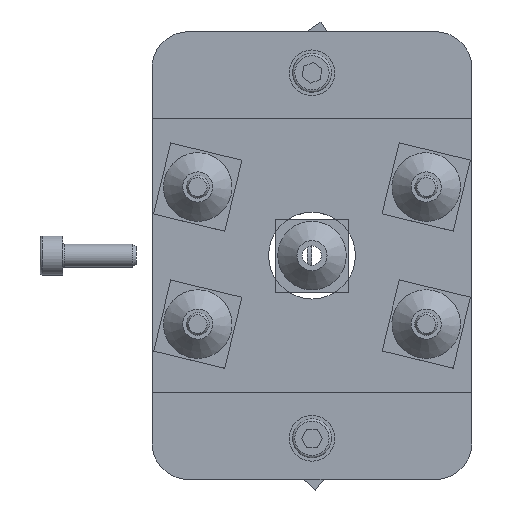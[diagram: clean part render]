
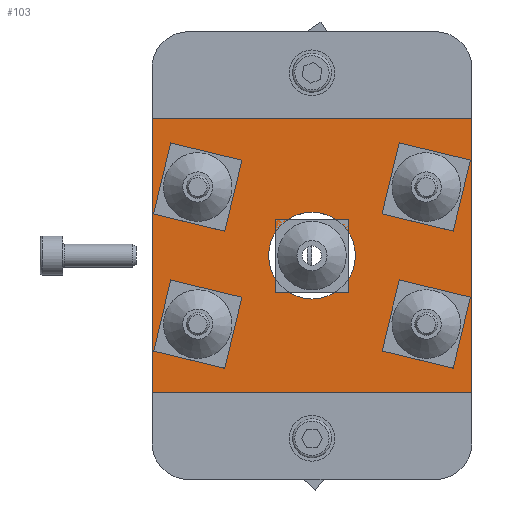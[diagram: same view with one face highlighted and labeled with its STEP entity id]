
A CAD part, top view. The second image highlights one B-rep face of the part: STEP entity #103.
In plain terms, the highlighted planar face has unit normal (0, 0, 1).
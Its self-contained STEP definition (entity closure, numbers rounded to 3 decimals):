
#103 = ADVANCED_FACE( '', ( #246, #247, #248, #249, #250, #251 ), #252, .T. );
#246 = FACE_BOUND( '', #446, .T. );
#247 = FACE_OUTER_BOUND( '', #447, .T. );
#248 = FACE_BOUND( '', #448, .T. );
#249 = FACE_BOUND( '', #449, .T. );
#250 = FACE_BOUND( '', #450, .T. );
#251 = FACE_BOUND( '', #451, .T. );
#252 = PLANE( '', #452 );
#446 = EDGE_LOOP( '', ( #712 ) );
#447 = EDGE_LOOP( '', ( #713, #714, #715, #716 ) );
#448 = EDGE_LOOP( '', ( #717 ) );
#449 = EDGE_LOOP( '', ( #718 ) );
#450 = EDGE_LOOP( '', ( #719 ) );
#451 = EDGE_LOOP( '', ( #720 ) );
#452 = AXIS2_PLACEMENT_3D( '', #721, #722, #723 );
#712 = ORIENTED_EDGE( '', *, *, #1037, .F. );
#713 = ORIENTED_EDGE( '', *, *, #1038, .T. );
#714 = ORIENTED_EDGE( '', *, *, #1039, .T. );
#715 = ORIENTED_EDGE( '', *, *, #1040, .F. );
#716 = ORIENTED_EDGE( '', *, *, #1005, .F. );
#717 = ORIENTED_EDGE( '', *, *, #1041, .F. );
#718 = ORIENTED_EDGE( '', *, *, #1042, .F. );
#719 = ORIENTED_EDGE( '', *, *, #1043, .F. );
#720 = ORIENTED_EDGE( '', *, *, #1044, .F. );
#721 = CARTESIAN_POINT( '', ( -53.9, 30.05, 1.8 ) );
#722 = DIRECTION( '', ( 0., 0., 1. ) );
#723 = DIRECTION( '', ( 1., 0., 0. ) );
#1005 = EDGE_CURVE( '', #1176, #1178, #1179, .T. );
#1037 = EDGE_CURVE( '', #1232, #1232, #1233, .T. );
#1038 = EDGE_CURVE( '', #1176, #1234, #1235, .T. );
#1039 = EDGE_CURVE( '', #1234, #1236, #1237, .T. );
#1040 = EDGE_CURVE( '', #1178, #1236, #1238, .T. );
#1041 = EDGE_CURVE( '', #1239, #1239, #1240, .T. );
#1042 = EDGE_CURVE( '', #1241, #1241, #1242, .T. );
#1043 = EDGE_CURVE( '', #1243, #1243, #1244, .T. );
#1044 = EDGE_CURVE( '', #1245, #1245, #1246, .T. );
#1176 = VERTEX_POINT( '', #1462 );
#1178 = VERTEX_POINT( '', #1465 );
#1179 = LINE( '', #1466, #1467 );
#1232 = VERTEX_POINT( '', #1536 );
#1233 = CIRCLE( '', #1537, 9.5 );
#1234 = VERTEX_POINT( '', #1538 );
#1235 = LINE( '', #1539, #1540 );
#1236 = VERTEX_POINT( '', #1541 );
#1237 = LINE( '', #1542, #1543 );
#1238 = LINE( '', #1544, #1545 );
#1239 = VERTEX_POINT( '', #1546 );
#1240 = CIRCLE( '', #1547, 2.6 );
#1241 = VERTEX_POINT( '', #1548 );
#1242 = CIRCLE( '', #1549, 2.6 );
#1243 = VERTEX_POINT( '', #1550 );
#1244 = CIRCLE( '', #1551, 2.6 );
#1245 = VERTEX_POINT( '', #1552 );
#1246 = CIRCLE( '', #1553, 2.6 );
#1462 = CARTESIAN_POINT( '', ( -35., 30.05, 1.8 ) );
#1465 = CARTESIAN_POINT( '', ( 35., 30.05, 1.8 ) );
#1466 = CARTESIAN_POINT( '', ( -53.9, 30.05, 1.8 ) );
#1467 = VECTOR( '', #1713, 1000. );
#1536 = CARTESIAN_POINT( '', ( 9.5, 0., 1.8 ) );
#1537 = AXIS2_PLACEMENT_3D( '', #1757, #1758, #1759 );
#1538 = CARTESIAN_POINT( '', ( -35., -30.05, 1.8 ) );
#1539 = CARTESIAN_POINT( '', ( -35., 49., 1.8 ) );
#1540 = VECTOR( '', #1760, 1000. );
#1541 = CARTESIAN_POINT( '', ( 35., -30.05, 1.8 ) );
#1542 = CARTESIAN_POINT( '', ( -53.9, -30.05, 1.8 ) );
#1543 = VECTOR( '', #1761, 1000. );
#1544 = CARTESIAN_POINT( '', ( 35., 30.05, 1.8 ) );
#1545 = VECTOR( '', #1762, 1000. );
#1546 = CARTESIAN_POINT( '', ( 27.6, -15., 1.8 ) );
#1547 = AXIS2_PLACEMENT_3D( '', #1763, #1764, #1765 );
#1548 = CARTESIAN_POINT( '', ( -22.4, 15., 1.8 ) );
#1549 = AXIS2_PLACEMENT_3D( '', #1766, #1767, #1768 );
#1550 = CARTESIAN_POINT( '', ( 27.6, 15., 1.8 ) );
#1551 = AXIS2_PLACEMENT_3D( '', #1769, #1770, #1771 );
#1552 = CARTESIAN_POINT( '', ( -22.4, -15., 1.8 ) );
#1553 = AXIS2_PLACEMENT_3D( '', #1772, #1773, #1774 );
#1713 = DIRECTION( '', ( 1., 0., 0. ) );
#1757 = CARTESIAN_POINT( '', ( 0., 0., 1.8 ) );
#1758 = DIRECTION( '', ( 0., 0., 1. ) );
#1759 = DIRECTION( '', ( 1., 0., 0. ) );
#1760 = DIRECTION( '', ( 0., -1., 0. ) );
#1761 = DIRECTION( '', ( 1., 0., 0. ) );
#1762 = DIRECTION( '', ( 0., -1., 0. ) );
#1763 = CARTESIAN_POINT( '', ( 25., -15., 1.8 ) );
#1764 = DIRECTION( '', ( 0., 0., 1. ) );
#1765 = DIRECTION( '', ( 1., 0., 0. ) );
#1766 = CARTESIAN_POINT( '', ( -25., 15., 1.8 ) );
#1767 = DIRECTION( '', ( 0., 0., 1. ) );
#1768 = DIRECTION( '', ( 1., 0., 0. ) );
#1769 = CARTESIAN_POINT( '', ( 25., 15., 1.8 ) );
#1770 = DIRECTION( '', ( 0., 0., 1. ) );
#1771 = DIRECTION( '', ( 1., 0., 0. ) );
#1772 = CARTESIAN_POINT( '', ( -25., -15., 1.8 ) );
#1773 = DIRECTION( '', ( 0., 0., 1. ) );
#1774 = DIRECTION( '', ( 1., 0., 0. ) );
